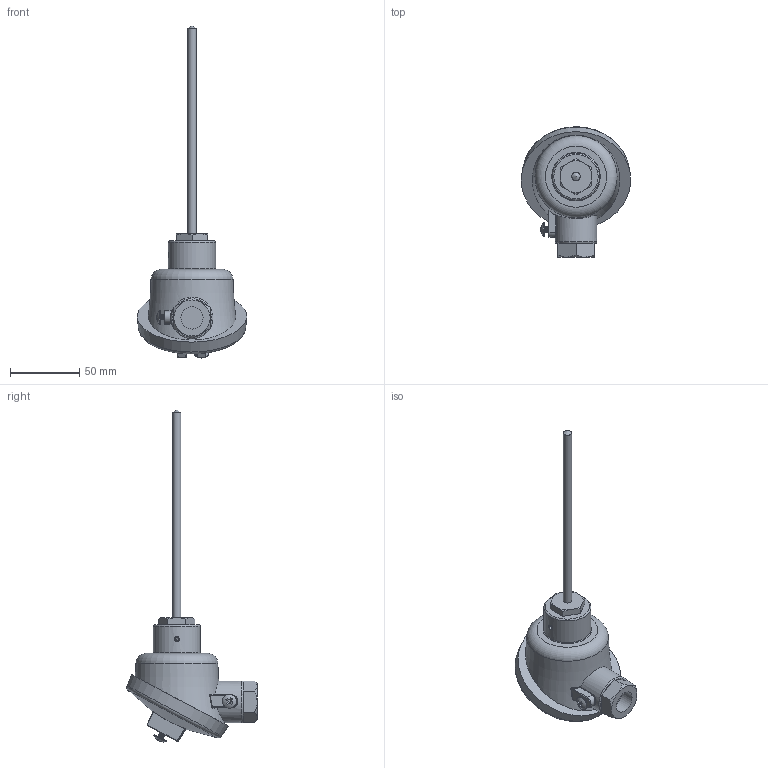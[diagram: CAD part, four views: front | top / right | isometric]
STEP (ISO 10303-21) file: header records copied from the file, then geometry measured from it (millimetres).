
FILE_DESCRIPTION (( 'STEP AP203' ), '1' );
FILE_NAME ('YIR35-3(0).STEP', '2025-01-27T02:44:40', ( '' ), ( '' ), 'SwSTEP 2.0', 'SolidWorks 2021', '' );
FILE_SCHEMA (( 'CONFIG_CONTROL_DESIGN' ));
Length unit declared in the file: millimetre
Products named in the file (1): YIR35-3(0)
Bounding box: 78.98 x 94.09 x 239.52 mm (x, y, z)
Volume: 203655.6 mm3; surface area: 27845.8 mm2
Topology: 1 solids, 2 shells, 195 faces, 478 edges, 296 vertices
Faces by surface type: plane 86, cylinder 47, bspline 24, cone 19, torus 11, sphere 8
Full cylindrical faces by diameter (mm): 3.5 x4, 3.6 x1, 3.8 x10, 6 x1, 10 x2, 16 x1, 18.6 x1, 20.5 x1, 30 x1, 34 x1
Entity records: 8334 total; most frequent: CARTESIAN_POINT 4581, ORIENTED_EDGE 768, DIRECTION 692, EDGE_CURVE 384, AXIS2_PLACEMENT_3D 269, VERTEX_POINT 247, EDGE_LOOP 223, FACE_OUTER_BOUND 202
